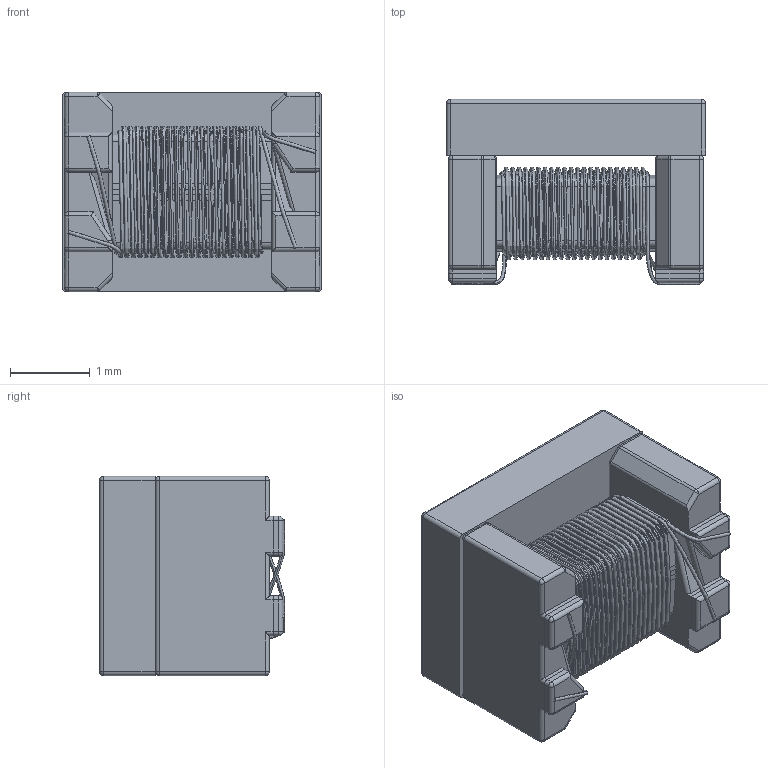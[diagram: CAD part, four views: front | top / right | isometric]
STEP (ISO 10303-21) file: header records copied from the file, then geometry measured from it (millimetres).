
FILE_DESCRIPTION (( 'STEP AP203' ), '1' );
FILE_NAME ('SCMC-3225.STEP', '2025-10-20T03:43:53', ( '' ), ( '' ), 'SwSTEP 2.0', 'SolidWorks 2025', '' );
FILE_SCHEMA (( 'CONFIG_CONTROL_DESIGN' ));
Length unit declared in the file: millimetre
Products named in the file (3): SCMC-3225; 3225 CMC I_CORE; 3225 CMC H_COIL
Assembly tree (2 placements, depth 2):
  SCMC-3225
    3225 CMC H_COIL
    3225 CMC I_CORE
Bounding box: 3.25 x 2.32 x 2.5 mm (x, y, z)
Volume: 13 mm3; surface area: 84 mm2
Topology: 2 solids, 2 shells, 220 faces, 544 edges, 288 vertices
Faces by surface type: cylinder 92, plane 80, sphere 32, bspline 16
Entity records: 37423 total; most frequent: CARTESIAN_POINT 32347, ORIENTED_EDGE 1024, DIRECTION 981, EDGE_CURVE 512, AXIS2_PLACEMENT_3D 349, VERTEX_POINT 288, LINE 283, VECTOR 283
